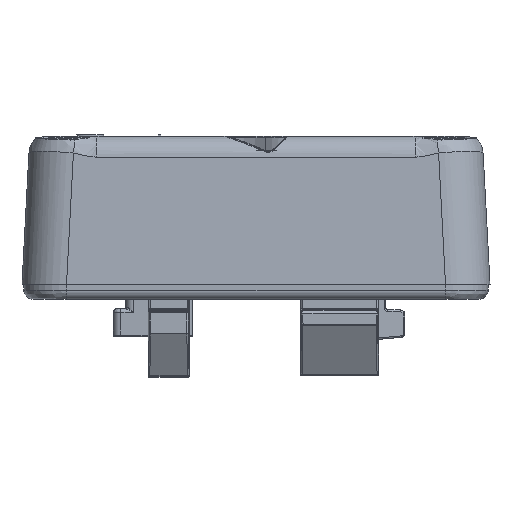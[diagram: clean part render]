
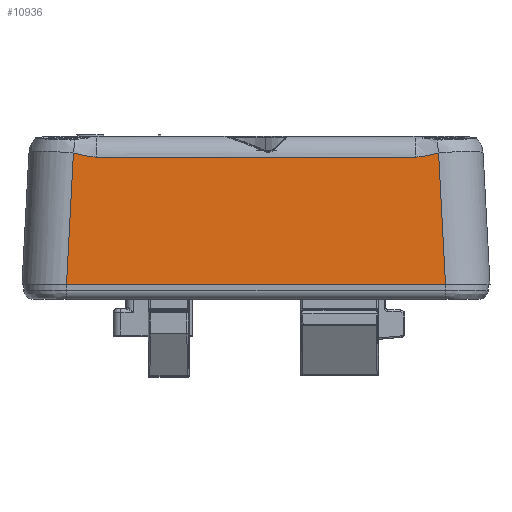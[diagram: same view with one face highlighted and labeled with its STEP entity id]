
A CAD part, left-side view. The second image highlights one B-rep face of the part: STEP entity #10936.
In plain terms, the highlighted planar face has unit normal (-0.999, 0, 0.052).
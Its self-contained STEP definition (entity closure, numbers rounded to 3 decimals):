
#72 = VERTEX_POINT ( 'NONE', #4970 ) ;
#198 = CARTESIAN_POINT ( 'NONE',  ( -101.762, 75.427, -4.013 ) ) ;
#578 = CARTESIAN_POINT ( 'NONE',  ( -101.762, 65.935, -4.013 ) ) ;
#3679 = LINE ( 'NONE', #8616, #13030 ) ;
#3910 = CARTESIAN_POINT ( 'NONE',  ( -100.862, 18.386, 13.166 ) ) ;
#4718 = VERTEX_POINT ( 'NONE', #10232 ) ;
#4970 = CARTESIAN_POINT ( 'NONE',  ( -101.762, 14.918, -4.013 ) ) ;
#4997 = CARTESIAN_POINT ( 'NONE',  ( -100.86, 62.663, 13.196 ) ) ;
#6045 = CARTESIAN_POINT ( 'NONE',  ( -100.847, 63.825, 13.443 ) ) ;
#6186 = CARTESIAN_POINT ( 'NONE',  ( -100.852, 63.478, 13.355 ) ) ;
#6329 = CARTESIAN_POINT ( 'NONE',  ( -100.842, 64.241, 13.55 ) ) ;
#6509 = ORIENTED_EDGE ( 'NONE', *, *, #19328, .F. ) ;
#6953 = CARTESIAN_POINT ( 'NONE',  ( -100.863, 40.427, 13.144 ) ) ;
#7090 = DIRECTION ( 'NONE',  ( 0., -1., 0. ) ) ;
#7911 = CARTESIAN_POINT ( 'NONE',  ( -101.762, 14.918, -4.013 ) ) ;
#7927 = B_SPLINE_CURVE_WITH_KNOTS ( 'NONE', 3,
 ( #30561, #37475, #3910, #17664, #30277, #24301, #37032, #20716, #40183, #33592 ),
 .UNSPECIFIED., .F., .F.,
 ( 4, 2, 2, 2, 4 ),
 ( 0., 0.25, 0.5, 0.75, 1. ),
 .UNSPECIFIED. ) ;
#8012 = EDGE_CURVE ( 'NONE', #20103, #4718, #38345, .T. ) ;
#8616 = CARTESIAN_POINT ( 'NONE',  ( -101.762, 40.427, -4.013 ) ) ;
#8627 = CARTESIAN_POINT ( 'NONE',  ( -100.863, 62.066, 13.144 ) ) ;
#8773 = CARTESIAN_POINT ( 'NONE',  ( -100.863, 62.255, 13.152 ) ) ;
#9499 = CARTESIAN_POINT ( 'NONE',  ( -100.838, 64.544, 13.626 ) ) ;
#9644 = CARTESIAN_POINT ( 'NONE',  ( -100.852, 63.484, 13.357 ) ) ;
#10232 = CARTESIAN_POINT ( 'NONE',  ( -100.863, 18.91, 13.144 ) ) ;
#10679 = CARTESIAN_POINT ( 'NONE',  ( -100.834, 65.007, 13.7 ) ) ;
#10936 = ADVANCED_FACE ( 'NONE', ( #39698 ), #33208, .T. ) ;
#11638 = ORIENTED_EDGE ( 'NONE', *, *, #15788, .F. ) ;
#12336 = CARTESIAN_POINT ( 'NONE',  ( -100.848, 63.787, 13.433 ) ) ;
#12758 = CARTESIAN_POINT ( 'NONE',  ( -100.847, 63.843, 13.448 ) ) ;
#12761 = DIRECTION ( 'NONE',  ( -0.999, 0., 0.052 ) ) ;
#13030 = VECTOR ( 'NONE', #14660, 1000. ) ;
#13384 = ORIENTED_EDGE ( 'NONE', *, *, #40597, .T. ) ;
#14660 = DIRECTION ( 'NONE',  ( 0., 1., 0. ) ) ;
#15326 = EDGE_CURVE ( 'NONE', #72, #33022, #24966, .T. ) ;
#15389 = CARTESIAN_POINT ( 'NONE',  ( -100.862, 62.486, 13.174 ) ) ;
#15788 = EDGE_CURVE ( 'NONE', #4718, #33022, #7927, .T. ) ;
#16105 = CARTESIAN_POINT ( 'NONE',  ( -100.846, 63.955, 13.477 ) ) ;
#16250 = CARTESIAN_POINT ( 'NONE',  ( -100.844, 64.069, 13.506 ) ) ;
#16308 = VERTEX_POINT ( 'NONE', #578 ) ;
#16687 = VECTOR ( 'NONE', #24785, 1000. ) ;
#17664 = CARTESIAN_POINT ( 'NONE',  ( -100.858, 17.871, 13.242 ) ) ;
#18308 = CARTESIAN_POINT ( 'NONE',  ( -100.852, 63.457, 13.35 ) ) ;
#18742 = CARTESIAN_POINT ( 'NONE',  ( -100.86, 62.706, 13.202 ) ) ;
#18878 = CARTESIAN_POINT ( 'NONE',  ( -100.842, 64.238, 13.549 ) ) ;
#19328 = EDGE_CURVE ( 'NONE', #72, #16308, #3679, .T. ) ;
#19380 = ORIENTED_EDGE ( 'NONE', *, *, #8012, .F. ) ;
#20103 = VERTEX_POINT ( 'NONE', #26187 ) ;
#20519 = DIRECTION ( 'NONE',  ( -0.052, 0.052, -0.997 ) ) ;
#20716 = CARTESIAN_POINT ( 'NONE',  ( -100.838, 16.355, 13.614 ) ) ;
#21737 = CARTESIAN_POINT ( 'NONE',  ( -100.834, 65.007, 13.7 ) ) ;
#22098 = CARTESIAN_POINT ( 'NONE',  ( -100.853, 63.366, 13.329 ) ) ;
#22242 = CARTESIAN_POINT ( 'NONE',  ( -100.842, 64.241, 13.55 ) ) ;
#22804 = CARTESIAN_POINT ( 'NONE',  ( -100.851, 63.532, 13.368 ) ) ;
#23078 = DIRECTION ( 'NONE',  ( 0.052, 0., 0.999 ) ) ;
#23093 = LINE ( 'NONE', #10679, #32946 ) ;
#23807 = ORIENTED_EDGE ( 'NONE', *, *, #31044, .T. ) ;
#24301 = CARTESIAN_POINT ( 'NONE',  ( -100.849, 17.112, 13.419 ) ) ;
#24785 = DIRECTION ( 'NONE',  ( 0.052, 0.052, 0.997 ) ) ;
#24802 = CARTESIAN_POINT ( 'NONE',  ( -100.86, 62.716, 13.204 ) ) ;
#24960 = CARTESIAN_POINT ( 'NONE',  ( -100.859, 62.837, 13.222 ) ) ;
#24966 = LINE ( 'NONE', #7911, #16687 ) ;
#25253 = CARTESIAN_POINT ( 'NONE',  ( -100.863, 61.943, 13.144 ) ) ;
#25401 = CARTESIAN_POINT ( 'NONE',  ( -100.853, 63.426, 13.343 ) ) ;
#26187 = CARTESIAN_POINT ( 'NONE',  ( -100.863, 61.943, 13.144 ) ) ;
#27815 = AXIS2_PLACEMENT_3D ( 'NONE', #198, #12761, #23078 ) ;
#29282 = CARTESIAN_POINT ( 'NONE',  ( -100.835, 64.798, 13.675 ) ) ;
#30277 = CARTESIAN_POINT ( 'NONE',  ( -100.855, 17.617, 13.296 ) ) ;
#30561 = CARTESIAN_POINT ( 'NONE',  ( -100.863, 18.91, 13.144 ) ) ;
#31044 = EDGE_CURVE ( 'NONE', #33597, #16308, #23093, .T. ) ;
#31770 = CARTESIAN_POINT ( 'NONE',  ( -100.855, 63.247, 13.302 ) ) ;
#32352 = CARTESIAN_POINT ( 'NONE',  ( -100.834, 65.007, 13.7 ) ) ;
#32796 = CARTESIAN_POINT ( 'NONE',  ( -100.842, 64.226, 13.546 ) ) ;
#32946 = VECTOR ( 'NONE', #20519, 1000. ) ;
#33022 = VERTEX_POINT ( 'NONE', #40369 ) ;
#33193 = B_SPLINE_CURVE_WITH_KNOTS ( 'NONE', 3,
 ( #25253, #8627, #8773, #15389, #41812, #4997, #38514, #18742, #24802, #24960, #41524, #31770, #22098, #25401, #18308, #41372, #6186, #9644, #22804, #36065, #41962, #12336, #6045, #12758, #16105, #16250, #42538, #39247, #32796, #42243, #18878, #22242, #6329, #9499, #29282, #32352 ),
 .UNSPECIFIED., .F., .F.,
 ( 4, 1, 1, 1, 1, 2, 2, 1, 1, 1, 1, 1, 2, 2, 1, 1, 2, 2, 1, 1, 1, 1, 1, 2, 2, 4 ),
 ( 0., 0.125, 0.187, 0.219, 0.234, 0.242, 0.25, 0.375, 0.437, 0.469, 0.484, 0.492, 0.496, 0.5, 0.562, 0.594, 0.609, 0.625, 0.687, 0.719, 0.734, 0.742, 0.746, 0.748, 0.75, 1. ),
 .UNSPECIFIED. ) ;
#33208 = PLANE ( 'NONE',  #27815 ) ;
#33592 = CARTESIAN_POINT ( 'NONE',  ( -100.834, 15.847, 13.7 ) ) ;
#33597 = VERTEX_POINT ( 'NONE', #21737 ) ;
#34236 = VECTOR ( 'NONE', #7090, 1000. ) ;
#34852 = EDGE_LOOP ( 'NONE', ( #19380, #13384, #23807, #6509, #42811, #11638 ) ) ;
#36065 = CARTESIAN_POINT ( 'NONE',  ( -100.85, 63.613, 13.388 ) ) ;
#37032 = CARTESIAN_POINT ( 'NONE',  ( -100.845, 16.86, 13.488 ) ) ;
#37475 = CARTESIAN_POINT ( 'NONE',  ( -100.863, 18.646, 13.144 ) ) ;
#38345 = LINE ( 'NONE', #6953, #34236 ) ;
#38514 = CARTESIAN_POINT ( 'NONE',  ( -100.86, 62.689, 13.2 ) ) ;
#39247 = CARTESIAN_POINT ( 'NONE',  ( -100.842, 64.208, 13.542 ) ) ;
#39698 = FACE_OUTER_BOUND ( 'NONE', #34852, .T. ) ;
#40183 = CARTESIAN_POINT ( 'NONE',  ( -100.835, 16.1, 13.67 ) ) ;
#40369 = CARTESIAN_POINT ( 'NONE',  ( -100.834, 15.847, 13.7 ) ) ;
#40597 = EDGE_CURVE ( 'NONE', #20103, #33597, #33193, .T. ) ;
#41372 = CARTESIAN_POINT ( 'NONE',  ( -100.852, 63.47, 13.353 ) ) ;
#41524 = CARTESIAN_POINT ( 'NONE',  ( -100.857, 63.018, 13.253 ) ) ;
#41812 = CARTESIAN_POINT ( 'NONE',  ( -100.861, 62.604, 13.188 ) ) ;
#41962 = CARTESIAN_POINT ( 'NONE',  ( -100.849, 63.731, 13.419 ) ) ;
#42243 = CARTESIAN_POINT ( 'NONE',  ( -100.842, 64.235, 13.549 ) ) ;
#42538 = CARTESIAN_POINT ( 'NONE',  ( -100.843, 64.168, 13.532 ) ) ;
#42811 = ORIENTED_EDGE ( 'NONE', *, *, #15326, .T. ) ;
